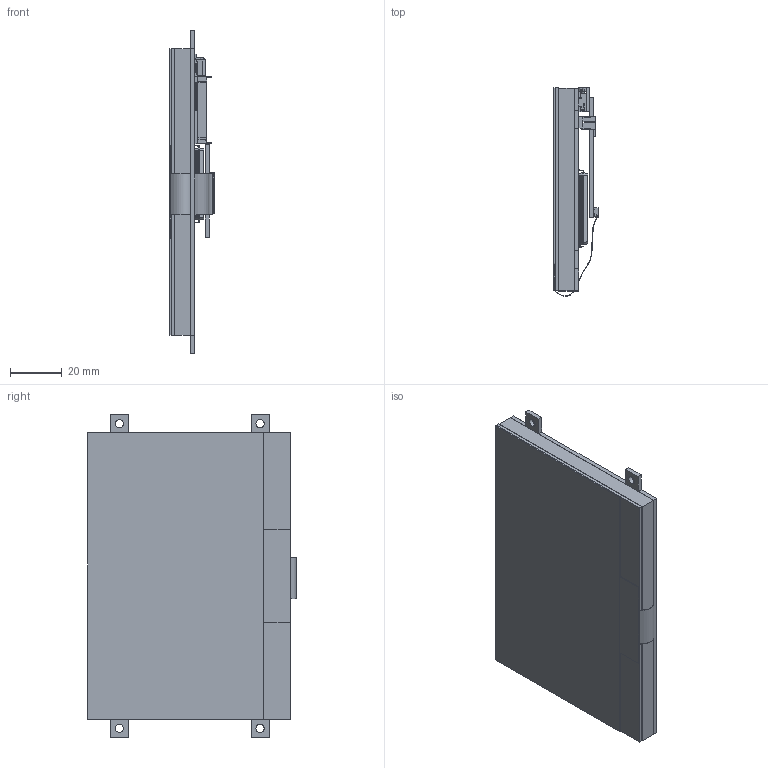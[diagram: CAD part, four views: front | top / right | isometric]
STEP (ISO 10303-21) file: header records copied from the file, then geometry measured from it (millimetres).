
FILE_DESCRIPTION (( 'STEP AP214' ), '1' );
FILE_NAME ('MK-CY-043 Rev-A.STEP', '2015-09-04T21:55:32', ( '' ), ( '' ), 'SwSTEP 2.0', 'SolidWorks 2015', '' );
FILE_SCHEMA (( 'AUTOMOTIVE_DESIGN' ));
Length unit declared in the file: inch
Products named in the file (15): 24pin Hirose header_K180038073_Stig-Wahlstrom; TSOP-86; TQFP-208-1; USB_mini_B-1; Tianma Display; 3052-cap; Frame; 6 way pcb header-1; MK-CY-043 Rev-A; Bare PCB; Glass; 45FXS-FPC-1; 48QFN_7x7-1; Populated PCB; 3052-cap-1
Assembly tree (14 placements, depth 4):
  MK-CY-043 Rev-A
    Frame
    Populated PCB
      Bare PCB
      TQFP-208-1
      TSOP-86
      24pin Hirose header_K180038073_Stig-Wahlstrom
      USB_mini_B-1
      3052-cap
        3052-cap-1
        48QFN_7x7-1
        45FXS-FPC-1
        6 way pcb header-1
    Glass
    Tianma Display
Bounding box: 17.07 x 80.62 x 124.99 mm (x, y, z)
Volume: 65802.3 mm3; surface area: 85749.8 mm2
Topology: 18 solids, 106 shells, 5596 faces, 15412 edges, 10229 vertices
Faces by surface type: plane 4191, cylinder 1326, bspline 45, torus 20, cone 10, sphere 4
Entity records: 200455 total; most frequent: CARTESIAN_POINT 35134, ORIENTED_EDGE 30291, DIRECTION 28128, EDGE_CURVE 15383, VECTOR 12284, LINE 12284, VERTEX_POINT 10209, AXIS2_PLACEMENT_3D 7922
